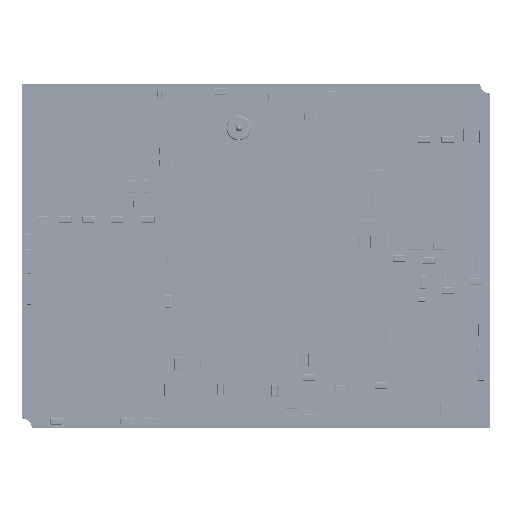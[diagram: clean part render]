
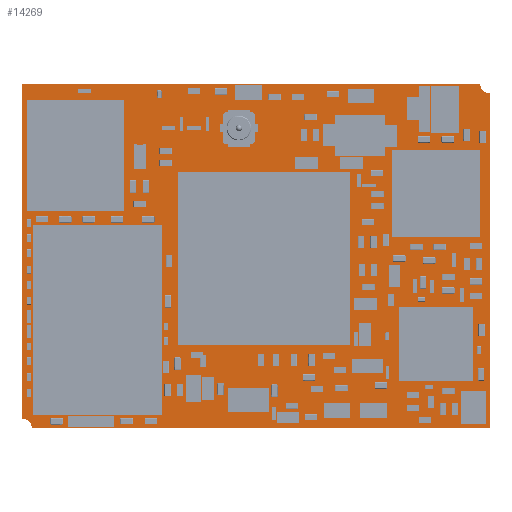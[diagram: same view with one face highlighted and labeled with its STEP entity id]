
A CAD part, top view. The second image highlights one B-rep face of the part: STEP entity #14269.
In plain terms, the highlighted planar face has unit normal (0, 0, 1).
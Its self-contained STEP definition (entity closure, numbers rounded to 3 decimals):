
#434 = LINE ( 'NONE', #9925, #76032 ) ;
#1079 = VERTEX_POINT ( 'NONE', #90017 ) ;
#2646 = CARTESIAN_POINT ( 'NONE',  ( 0., 28., 1.626 ) ) ;
#3019 = DIRECTION ( 'NONE',  ( 1., 0., 0. ) ) ;
#3541 = VERTEX_POINT ( 'NONE', #103319 ) ;
#6288 = ORIENTED_EDGE ( 'NONE', *, *, #52775, .T. ) ;
#7011 = DIRECTION ( 'NONE',  ( 0., 0., 1. ) ) ;
#7221 = FACE_OUTER_BOUND ( 'NONE', #81057, .T. ) ;
#7417 = VECTOR ( 'NONE', #48780, 1000. ) ;
#7459 = CARTESIAN_POINT ( 'NONE',  ( 0., 0.8, 1.626 ) ) ;
#9925 = CARTESIAN_POINT ( 'NONE',  ( 0., 0., 1.626 ) ) ;
#10918 = AXIS2_PLACEMENT_3D ( 'NONE', #15998, #7011, #72183 ) ;
#11648 = LINE ( 'NONE', #30822, #7417 ) ;
#12802 = ORIENTED_EDGE ( 'NONE', *, *, #60776, .T. ) ;
#13139 = VERTEX_POINT ( 'NONE', #88372 ) ;
#14269 = ADVANCED_FACE ( 'TOP', ( #7221 ), #102169, .T. ) ;
#15799 = VECTOR ( 'NONE', #78497, 1000. ) ;
#15998 = CARTESIAN_POINT ( 'NONE',  ( 38., 28., 1.626 ) ) ;
#17888 = EDGE_CURVE ( 'NONE', #51956, #57672, #63479, .T. ) ;
#20579 = CARTESIAN_POINT ( 'NONE',  ( 38., 27.2, 1.626 ) ) ;
#21508 = VERTEX_POINT ( 'NONE', #20579 ) ;
#26738 = DIRECTION ( 'NONE',  ( 1., 0., 0. ) ) ;
#30822 = CARTESIAN_POINT ( 'NONE',  ( 38., 28., 1.626 ) ) ;
#32121 = ORIENTED_EDGE ( 'NONE', *, *, #101974, .F. ) ;
#32513 = AXIS2_PLACEMENT_3D ( 'NONE', #69701, #77982, #113219 ) ;
#38267 = EDGE_CURVE ( 'NONE', #3541, #21508, #49850, .T. ) ;
#41542 = CIRCLE ( 'NONE', #10918, 0.8 ) ;
#48780 = DIRECTION ( 'NONE',  ( -1., 0., 0. ) ) ;
#49850 = LINE ( 'NONE', #105366, #15799 ) ;
#51956 = VERTEX_POINT ( 'NONE', #2646 ) ;
#52775 = EDGE_CURVE ( 'NONE', #1079, #51956, #11648, .T. ) ;
#53353 = CARTESIAN_POINT ( 'NONE',  ( 0., 28., 1.626 ) ) ;
#53609 = ORIENTED_EDGE ( 'NONE', *, *, #17888, .T. ) ;
#56394 = ORIENTED_EDGE ( 'NONE', *, *, #111832, .F. ) ;
#57672 = VERTEX_POINT ( 'NONE', #7459 ) ;
#60776 = EDGE_CURVE ( 'NONE', #13139, #3541, #434, .T. ) ;
#63479 = LINE ( 'NONE', #53353, #101227 ) ;
#66682 = AXIS2_PLACEMENT_3D ( 'NONE', #91414, #73569, #3019 ) ;
#68851 = CIRCLE ( 'NONE', #32513, 0.8 ) ;
#69701 = CARTESIAN_POINT ( 'NONE',  ( 0., 0., 1.626 ) ) ;
#72183 = DIRECTION ( 'NONE',  ( 1., 0., 0. ) ) ;
#73569 = DIRECTION ( 'NONE',  ( 0., 0., 1. ) ) ;
#76032 = VECTOR ( 'NONE', #26738, 1000. ) ;
#77982 = DIRECTION ( 'NONE',  ( 0., 0., 1. ) ) ;
#78497 = DIRECTION ( 'NONE',  ( 0., 1., 0. ) ) ;
#81057 = EDGE_LOOP ( 'NONE', ( #56394, #6288, #53609, #32121, #12802, #81095 ) ) ;
#81095 = ORIENTED_EDGE ( 'NONE', *, *, #38267, .T. ) ;
#88372 = CARTESIAN_POINT ( 'NONE',  ( 0.8, 0., 1.626 ) ) ;
#89752 = DIRECTION ( 'NONE',  ( 0., -1., 0. ) ) ;
#90017 = CARTESIAN_POINT ( 'NONE',  ( 37.2, 28., 1.626 ) ) ;
#91414 = CARTESIAN_POINT ( 'NONE',  ( 0., 0., 1.626 ) ) ;
#101227 = VECTOR ( 'NONE', #89752, 1000. ) ;
#101974 = EDGE_CURVE ( 'NONE', #13139, #57672, #68851, .T. ) ;
#102169 = PLANE ( 'NONE',  #66682 ) ;
#103319 = CARTESIAN_POINT ( 'NONE',  ( 38., 0., 1.626 ) ) ;
#105366 = CARTESIAN_POINT ( 'NONE',  ( 38., 0., 1.626 ) ) ;
#111832 = EDGE_CURVE ( 'NONE', #1079, #21508, #41542, .T. ) ;
#113219 = DIRECTION ( 'NONE',  ( 1., 0., 0. ) ) ;
